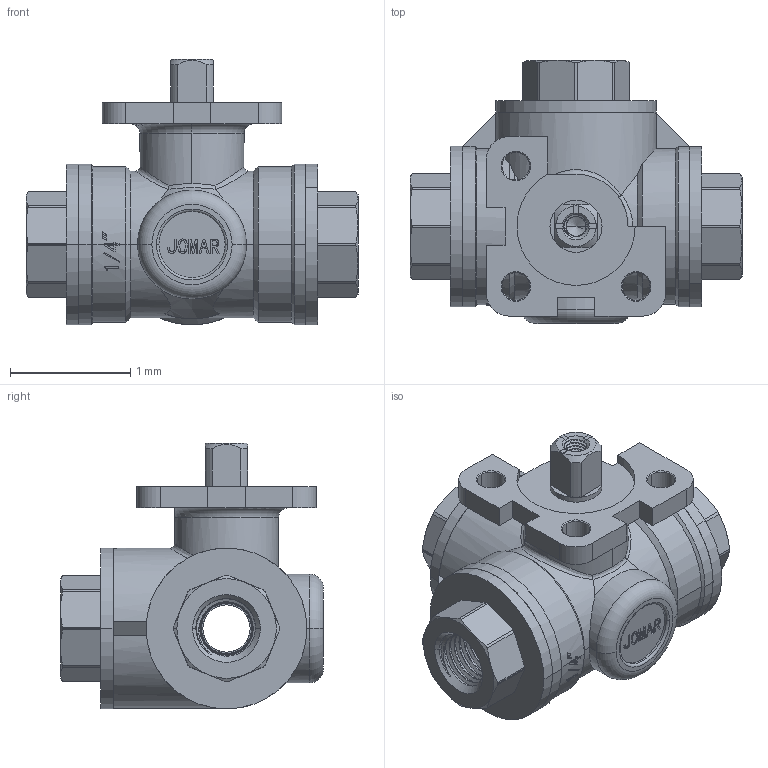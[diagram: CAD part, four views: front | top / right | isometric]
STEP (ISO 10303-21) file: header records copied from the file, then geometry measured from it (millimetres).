
FILE_DESCRIPTION(('Open CASCADE Model'),'2;1');
FILE_NAME('Open CASCADE Shape Model','2023-01-24T15:54:11',('Author'),( 'Open CASCADE'),'Open CASCADE STEP processor 7.3','Open CASCADE 7.3' ,'Unknown');
FILE_SCHEMA(('AUTOMOTIVE_DESIGN { 1 0 10303 214 1 1 1 1 }'));
Length unit declared in the file: millimetre
Products named in the file (18): Open CASCADE STEP translator 7.3 1; Open CASCADE STEP translator 7.3 1.1; Open CASCADE STEP translator 7.3 1.2; Open CASCADE STEP translator 7.3 1.3; Open CASCADE STEP translator 7.3 1.4; Open CASCADE STEP translator 7.3 1.5; Open CASCADE STEP translator 7.3 1.6; Open CASCADE STEP translator 7.3 1.7; Open CASCADE STEP translator 7.3 1.8; Open CASCADE STEP translator 7.3 1.9; Open CASCADE STEP translator 7.3 1.10; Open CASCADE STEP translator 7.3 1.11; Open CASCADE STEP translator 7.3 1.12; Open CASCADE STEP translator 7.3 1.13; Open CASCADE STEP translator 7.3 1.14; Open CASCADE STEP translator 7.3 1.15; Open CASCADE STEP translator 7.3 1.16; Open CASCADE STEP translator 7.3 1.17
Assembly tree (17 placements, depth 2):
  Open CASCADE STEP translator 7.3 1
    Open CASCADE STEP translator 7.3 1.1
    Open CASCADE STEP translator 7.3 1.2
    Open CASCADE STEP translator 7.3 1.3
    Open CASCADE STEP translator 7.3 1.4
    Open CASCADE STEP translator 7.3 1.5
    Open CASCADE STEP translator 7.3 1.6
    Open CASCADE STEP translator 7.3 1.7
    Open CASCADE STEP translator 7.3 1.8
    Open CASCADE STEP translator 7.3 1.9
    Open CASCADE STEP translator 7.3 1.10
    Open CASCADE STEP translator 7.3 1.11
    Open CASCADE STEP translator 7.3 1.12
    Open CASCADE STEP translator 7.3 1.13
    Open CASCADE STEP translator 7.3 1.14
    Open CASCADE STEP translator 7.3 1.15
    Open CASCADE STEP translator 7.3 1.16
    Open CASCADE STEP translator 7.3 1.17
Bounding box: 2.77 x 2.19 x 2.21 mm (x, y, z)
Volume: 3.7 mm3; surface area: 64.6 mm2
Topology: 17 solids, 17 shells, 810 faces, 2050 edges, 1309 vertices
Faces by surface type: cylinder 268, plane 222, cone 153, bspline 99, torus 54, sphere 10, revolution 4
Entity records: 109140 total; most frequent: CARTESIAN_POINT 71206, DIRECTION 6167, ORIENTED_EDGE 4090, PCURVE 4090, DEFINITIONAL_REPRESENTATION 4090, LINE 3049, VECTOR 3049, EDGE_CURVE 2045
